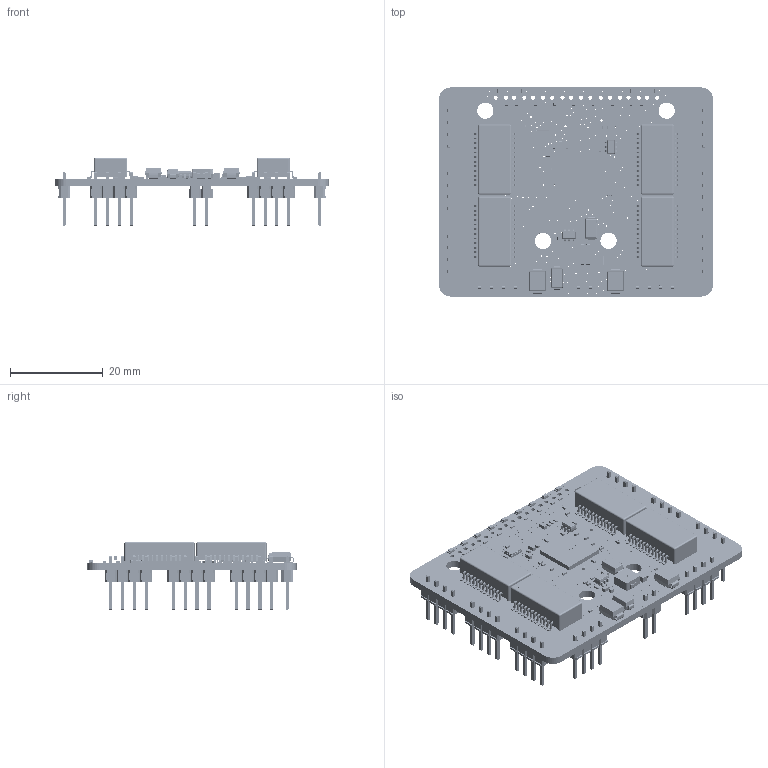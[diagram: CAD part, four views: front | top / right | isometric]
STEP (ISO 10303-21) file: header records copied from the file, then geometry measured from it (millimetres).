
FILE_DESCRIPTION(('Designed by EasyEDA Pro'),'2;1');
FILE_NAME('Open CASCADE Shape Model','2026-07-21T12:09:21',('Author'),( 'Open CASCADE'),'Open CASCADE STEP processor 7.8','Open CASCADE 7.8' ,'Unknown');
FILE_SCHEMA(('AUTOMOTIVE_DESIGN { 1 0 10303 214 1 1 1 1 }'));
Length unit declared in the file: millimetre
Products named in the file (650): EasyEDA PCB Model~3YCo; Board~3YCo; TopCopper~3YCo; BottomCopper~3YCo; TopSilkscreen~3YCo; BottomSilkscreen~3YCo; TopFpcStiffener~3YCo; BottomFpcStiffener~3YCo; C33~1206~C1206_L3.2-W1.6-H1.3_1~3YCo; 1206~C1206_L3.2-W1.6-H1.3_1~3YCo; C18~1206~C1206_L3.2-W1.6-H1.3_1~3YCo; C0402~C0402~qwZD; C10~C0402~C0402~Glcq; C15~C0402~C0402~Bnwx; C2~C0402~C0402~DctV; C6~C0402~C0402~5Y4X; C7~C0402~C0402~9SjW; C8~C0402~C0402~H0PX; C36~C0402~C0402~wylQ; C40~C0402~C0402~Rpgs; C42~C0402~C0402~uDrC; C43~C0402~C0402~uHXD; C45~C0402~C0402~fE9g; C46~C0402~C0402~LcwT; C47~C0402~C0402~j9e3; C50~C0402~C0402~K5AU; C51~C0402~C0402~tQro; C52~C0402~C0402~8U3o; C53~C0402~C0402~5BpV; C54~C0402~C0402~WhLl; C55~C0402~C0402~rfrn; C60~C0402~C0402~3WhO; C64~C0402~C0402~E378; C14~C0402~C0402~tewe; C12~C0402~C0402~u6lv; C13~C0402~C0402~kB0l; C1~C0402~C0402~WSBz; C9~C0402~C0402~vivI; C30~C0402~C0402~3ubV; R0402~R0402_L1.0-W0.5-H0.4~m8P1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
Assembly tree (1003 placements, depth 3):
  EasyEDA PCB Model~3YCo
    Board~3YCo
    TopCopper~3YCo
      TopCopper~3YCo
      TopCopper~3YCo
      TopCopper~3YCo
      TopCopper~3YCo
      TopCopper~3YCo
      TopCopper~3YCo
      TopCopper~3YCo
      TopCopper~3YCo
      TopCopper~3YCo
      TopCopper~3YCo
      TopCopper~3YCo
      TopCopper~3YCo
      TopCopper~3YCo
      TopCopper~3YCo
      TopCopper~3YCo
      TopCopper~3YCo
      TopCopper~3YCo
      TopCopper~3YCo
      TopCopper~3YCo
      TopCopper~3YCo
      TopCopper~3YCo
      TopCopper~3YCo
      TopCopper~3YCo
      TopCopper~3YCo
      TopCopper~3YCo
      TopCopper~3YCo
      TopCopper~3YCo
      TopCopper~3YCo
      TopCopper~3YCo
      TopCopper~3YCo
      TopCopper~3YCo
      TopCopper~3YCo
      TopCopper~3YCo
      TopCopper~3YCo
      TopCopper~3YCo
      TopCopper~3YCo
      TopCopper~3YCo
      TopCopper~3YCo
      TopCopper~3YCo
      TopCopper~3YCo
      TopCopper~3YCo
      TopCopper~3YCo
      TopCopper~3YCo
      TopCopper~3YCo
      TopCopper~3YCo
      TopCopper~3YCo
      TopCopper~3YCo
      TopCopper~3YCo
      TopCopper~3YCo
      TopCopper~3YCo
      TopCopper~3YCo
      TopCopper~3YCo
      TopCopper~3YCo
      TopCopper~3YCo
      TopCopper~3YCo
      TopCopper~3YCo
      TopCopper~3YCo
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Bounding box: 58.97 x 44.97 x 14.64 mm (x, y, z)
Volume: 6658.3 mm3; surface area: 13454.8 mm2
Topology: 534 solids, 1077 shells, 31207 faces, 120216 edges, 92300 vertices
Faces by surface type: plane 18880, bspline 8452, cylinder 3419, sphere 348, torus 108
Full cylindrical faces by diameter (mm): 0.189 x1, 0.248 x2
Entity records: 588738 total; most frequent: CARTESIAN_POINT 142600, DIRECTION 68971, ORIENTED_EDGE 68836, EDGE_CURVE 53550, VERTEX_POINT 48384, LINE 42827, VECTOR 42827, AXIS2_PLACEMENT_3D 13072
